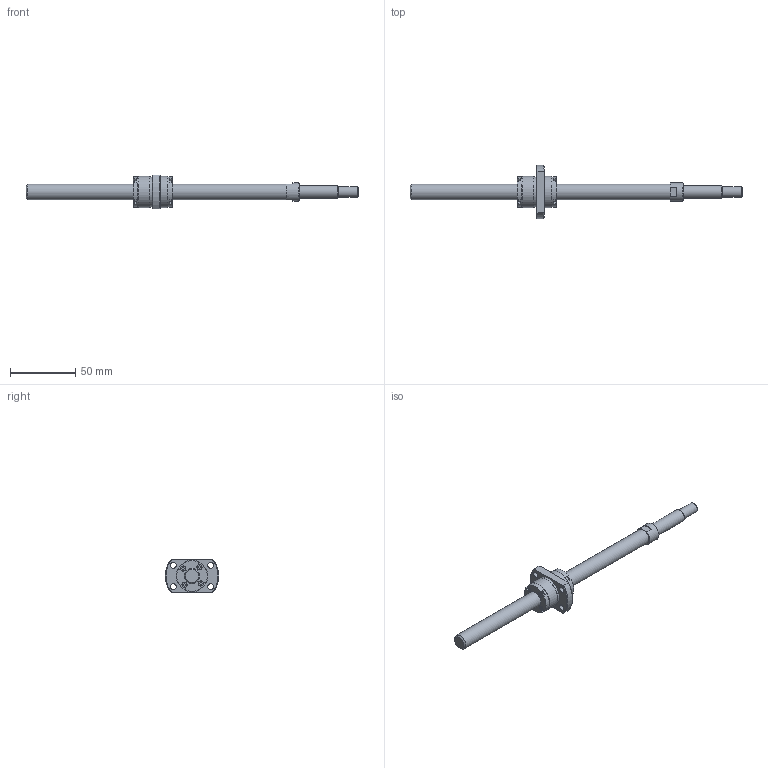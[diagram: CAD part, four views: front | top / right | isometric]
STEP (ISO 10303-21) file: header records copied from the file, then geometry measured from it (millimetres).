
FILE_DESCRIPTION(/* description */ ('STEP AP214'),/* implementation_level */ '2;1');
FILE_NAME(/* name */ 'SRT1210-196R255C7A0X(82.5Processing)',/* time_stamp */ '2026-08-06T15:13:15+02:00',/* author */ ('License CC BY-ND 4.0'),/* organization */ ('CADENAS'),/* preprocessor_version */ 'ST-DEVELOPER v20',/* originating_system */ 'PARTsolutions',/* authorisation */ ' ');
FILE_SCHEMA (('AUTOMOTIVE_DESIGN {1 0 10303 214 3 1 1}'));
Length unit declared in the file: millimetre
Products named in the file (3): SRT1210-196R255C7A0X(82.5Processing); SRT1210-196R270ACt7Processing81Shaft; SRT1210Nut
Assembly tree (2 placements, depth 2):
  SRT1210-196R255C7A0X(82.5Processing)
    SRT1210-196R270ACt7Processing81Shaft
    SRT1210Nut
Bounding box: 255 x 41 x 26 mm (x, y, z)
Volume: 39850 mm3; surface area: 15454.1 mm2
Topology: 2 solids, 2 shells, 150 faces, 361 edges, 238 vertices
Faces by surface type: plane 107, cylinder 32, cone 10, torus 1
Full cylindrical faces by diameter (mm): 3.8 x8, 4.5 x4, 8 x1, 10 x1, 12 x2, 14 x1, 23.5 x3, 24 x2
Entity records: 4267 total; most frequent: CARTESIAN_POINT 737, DIRECTION 718, ORIENTED_EDGE 654, EDGE_CURVE 327, AXIS2_PLACEMENT_3D 246, VERTEX_POINT 233, LINE 226, VECTOR 226
